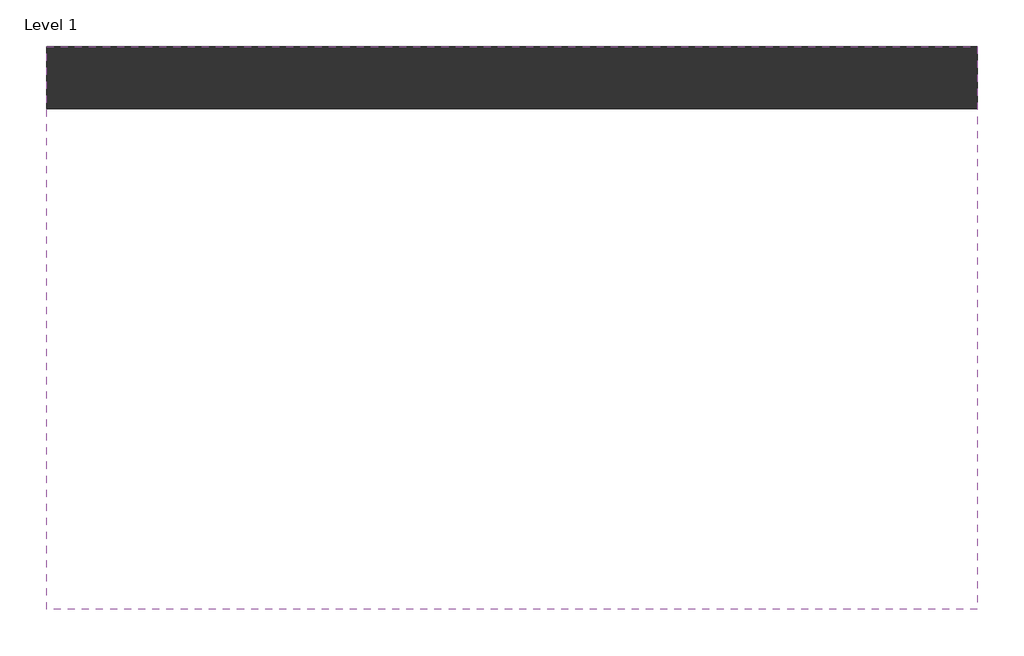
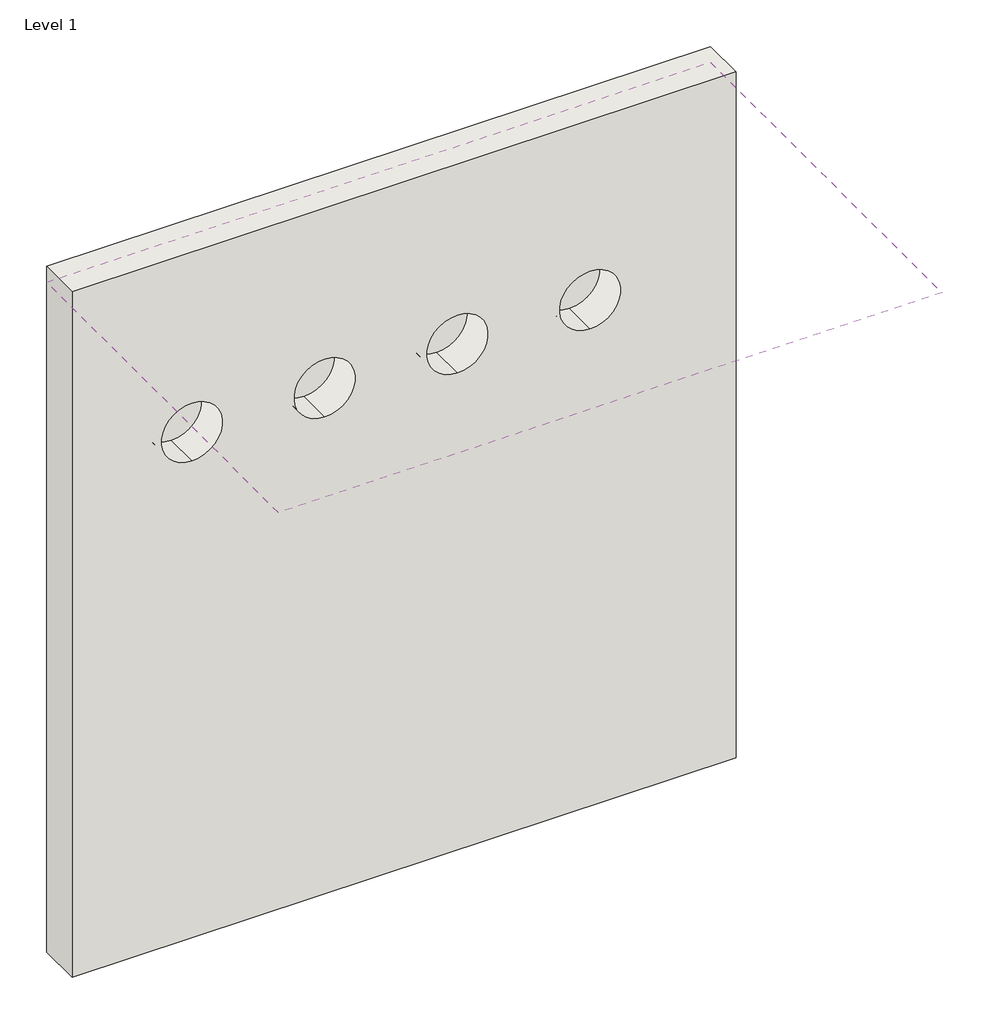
# One storey: 1 covering, 1 wall.
"""IFC4 building model written with IfcOpenShell, lengths in millimetres."""

from ifc_helpers import new_model, si_unit, point, frame, frame_2d, origin, place, context, project, spatial, polyline, circle_curve, trimmed, segment, composite_curve, outline, extrude, element, save
from ifc_brep_helpers import plane_surface, revolved_surface, advanced_brep

model = new_model("IFC4")

# Units and contexts
model_context = context("Model", 3, world=origin())
ifc_project = project(units=[si_unit("LENGTHUNIT", "METRE", prefix="MILLI")], contexts=[model_context])

# Site, building, storey
site = spatial("IfcSite", under=ifc_project)
building = spatial("IfcBuilding", under=site)
storey = spatial("IfcBuildingStorey", under=building, Name="Level 1", Elevation=0.0)

# Covering
placement = place(None, origin())
element("IfcCovering", 1, ObjectType="2' x 4' ACT System", at=placement, inside=storey, context=model_context, shape_type="SweptSolid", body=[
    extrude(outline(polyline([(1833.1973575, 2115.5766815), (4119.1973575, 2115.5766815), (4119.1973575, 732.2741036), (1833.1973575, 732.2741036), (1833.1973575, 2115.5766815)]), holes=[composite_curve([segment(trimmed(circle_curve(frame_2d((2246.1306576, 1319.3766815)), 105.0), [point((2351.1306576, 1319.3766815))], [point((2141.1306576, 1319.3766815))], True, "CARTESIAN"), True, "CONTINUOUS"), segment(trimmed(circle_curve(frame_2d((2246.1306576, 1319.3766815)), 105.0), [point((2141.1306576, 1319.3766815))], [point((2351.1306576, 1319.3766815))], True, "CARTESIAN"), True, "CONTINUOUS")], self_intersect=False), composite_curve([segment(trimmed(circle_curve(frame_2d((2706.1306576, 1319.3766815)), 105.0), [point((2811.1306576, 1319.3766815))], [point((2601.1306576, 1319.3766815))], True, "CARTESIAN"), True, "CONTINUOUS"), segment(trimmed(circle_curve(frame_2d((2706.1306576, 1319.3766815)), 105.0), [point((2601.1306576, 1319.3766815))], [point((2811.1306576, 1319.3766815))], True, "CARTESIAN"), True, "CONTINUOUS")], self_intersect=False), composite_curve([segment(trimmed(circle_curve(frame_2d((3166.1306576, 1319.3766815)), 105.0), [point((3271.1306576, 1319.3766815))], [point((3061.1306576, 1319.3766815))], True, "CARTESIAN"), True, "CONTINUOUS"), segment(trimmed(circle_curve(frame_2d((3166.1306576, 1319.3766815)), 105.0), [point((3061.1306576, 1319.3766815))], [point((3271.1306576, 1319.3766815))], True, "CARTESIAN"), True, "CONTINUOUS")], self_intersect=False), composite_curve([segment(trimmed(circle_curve(frame_2d((3626.1306576, 1319.3766815)), 105.0), [point((3731.1306576, 1319.3766815))], [point((3521.1306576, 1319.3766815))], True, "CARTESIAN"), True, "CONTINUOUS"), segment(trimmed(circle_curve(frame_2d((3626.1306576, 1319.3766815)), 105.0), [point((3521.1306576, 1319.3766815))], [point((3731.1306576, 1319.3766815))], True, "CARTESIAN"), True, "CONTINUOUS")], self_intersect=False)]), frame((0.0, 0.0, 2438.4), z_axis=(0.0, 0.0, 1.0), x_axis=(1.0, 0.0, 0.0)), (0.0, 0.0, 1.0), 57.15),
])

# Wall
element("IfcWall", 2, ObjectType="Exterior - 6\" Generic", at=placement, inside=storey, context=model_context, shape_type="AdvancedBrep", body=[
    advanced_brep(
    [(1833.1973575, 1963.1766815, 0.0), (4119.1973575, 1963.1766815, 0.0), (4119.1973575, 1963.1766815, 2495.55), (1833.1973575, 1963.1766815, 2495.55), (2246.1306576, 1963.1766815, 1945.4804373), (2246.1306576, 1963.1766815, 1735.4804373), (2703.3306576, 1963.1766815, 1945.4804373), (2703.3306576, 1963.1766815, 1735.4804373), (3160.5306576, 1963.1766815, 1945.4804373), (3160.5306576, 1963.1766815, 1735.4804373), (3617.7306576, 1963.1766815, 1945.4804373), (3617.7306576, 1963.1766815, 1735.4804373), (4119.1973575, 2115.5766815, 0.0), (1833.1973575, 2115.5766815, 0.0), (1833.1973575, 2115.5766815, 2495.55), (4119.1973575, 2115.5766815, 2495.55), (2246.1306576, 2087.1167099, 1735.4804373), (2246.1306576, 2087.1167099, 1945.4804373), (2703.3306576, 2087.1167099, 1735.4804373), (2703.3306576, 2087.1167099, 1945.4804373), (3160.5306576, 2087.1167099, 1735.4804373), (3160.5306576, 2087.1167099, 1945.4804373), (3617.7306576, 2087.1167099, 1735.4804373), (3617.7306576, 2087.1167099, 1945.4804373)],
    [
        (0, 1),
        (1, 2),
        (2, 3),
        (3, 0),
        (4, 5, circle_curve(frame((2246.1306576, 1963.1766815, 1840.4804373), z_axis=(0.0, 1.0, 0.0), x_axis=(0.0, 0.0, 1.0)), 105.0)),
        (5, 4, circle_curve(frame((2246.1306576, 1963.1766815, 1840.4804373), z_axis=(0.0, 1.0, 0.0), x_axis=(0.0, 0.0, 1.0)), 105.0)),
        (6, 7, circle_curve(frame((2703.3306576, 1963.1766815, 1840.4804373), z_axis=(0.0, 1.0, 0.0), x_axis=(0.0, 0.0, 1.0)), 105.0)),
        (7, 6, circle_curve(frame((2703.3306576, 1963.1766815, 1840.4804373), z_axis=(0.0, 1.0, 0.0), x_axis=(0.0, 0.0, 1.0)), 105.0)),
        (8, 9, circle_curve(frame((3160.5306576, 1963.1766815, 1840.4804373), z_axis=(0.0, 1.0, 0.0), x_axis=(0.0, 0.0, 1.0)), 105.0)),
        (9, 8, circle_curve(frame((3160.5306576, 1963.1766815, 1840.4804373), z_axis=(0.0, 1.0, 0.0), x_axis=(0.0, 0.0, 1.0)), 105.0)),
        (10, 11, circle_curve(frame((3617.7306576, 1963.1766815, 1840.4804373), z_axis=(0.0, 1.0, 0.0), x_axis=(0.0, 0.0, 1.0)), 105.0)),
        (11, 10, circle_curve(frame((3617.7306576, 1963.1766815, 1840.4804373), z_axis=(0.0, 1.0, 0.0), x_axis=(0.0, 0.0, 1.0)), 105.0)),
        (12, 13),
        (13, 14),
        (14, 15),
        (15, 12),
        (0, 13),
        (12, 1),
        (15, 2),
        (14, 3),
        (16, 17, circle_curve(frame((2246.1306576, 2087.1167099, 1840.4804373), z_axis=(0.0, -1.0, 0.0), x_axis=(0.0, 0.0, 1.0)), 105.0)),
        (17, 16, circle_curve(frame((2246.1306576, 2087.1167099, 1840.4804373), z_axis=(0.0, -1.0, 0.0), x_axis=(0.0, 0.0, 1.0)), 105.0)),
        (16, 5),
        (4, 17),
        (18, 19, circle_curve(frame((2703.3306576, 2087.1167099, 1840.4804373), z_axis=(0.0, -1.0, 0.0), x_axis=(0.0, 0.0, 1.0)), 105.0)),
        (19, 18, circle_curve(frame((2703.3306576, 2087.1167099, 1840.4804373), z_axis=(0.0, -1.0, 0.0), x_axis=(0.0, 0.0, 1.0)), 105.0)),
        (18, 7),
        (6, 19),
        (20, 21, circle_curve(frame((3160.5306576, 2087.1167099, 1840.4804373), z_axis=(0.0, -1.0, 0.0), x_axis=(0.0, 0.0, 1.0)), 105.0)),
        (21, 20, circle_curve(frame((3160.5306576, 2087.1167099, 1840.4804373), z_axis=(0.0, -1.0, 0.0), x_axis=(0.0, 0.0, 1.0)), 105.0)),
        (20, 9),
        (8, 21),
        (22, 23, circle_curve(frame((3617.7306576, 2087.1167099, 1840.4804373), z_axis=(0.0, -1.0, 0.0), x_axis=(0.0, 0.0, 1.0)), 105.0)),
        (23, 22, circle_curve(frame((3617.7306576, 2087.1167099, 1840.4804373), z_axis=(0.0, -1.0, 0.0), x_axis=(0.0, 0.0, 1.0)), 105.0)),
        (22, 11),
        (10, 23),
    ],
    [
        plane_surface(frame((1833.1973575, 1963.1766815, 0.0), z_axis=(0.0, -1.0, 0.0), x_axis=(1.0, 0.0, 0.0))),
        plane_surface(frame((1833.1973575, 2115.5766815, 0.0), z_axis=(0.0, 1.0, 0.0), x_axis=(-1.0, 0.0, 0.0))),
        plane_surface(frame((1833.1973575, 1963.1766815, 0.0), z_axis=(0.0, 0.0, -1.0), x_axis=(0.0, 1.0, 0.0))),
        plane_surface(frame((4119.1973575, 1963.1766815, 0.0), z_axis=(1.0, 0.0, 0.0), x_axis=(0.0, 1.0, 0.0))),
        plane_surface(frame((4119.1973575, 1963.1766815, 2495.55), z_axis=(0.0, 0.0, 1.0), x_axis=(0.0, 1.0, 0.0))),
        plane_surface(frame((1833.1973575, 1963.1766815, 2495.55), z_axis=(-1.0, 0.0, 0.0), x_axis=(0.0, 1.0, 0.0))),
        plane_surface(frame((2246.1306576, 2087.1167099, 1945.4804373), z_axis=(0.0, -1.0, 0.0), x_axis=(1.0, 0.0, 0.0))),
        revolved_surface(polyline([(2246.1306576, 1963.1766815, 1945.4804373), (2246.1306576, 2087.1167099, 1945.4804373)]), (2246.1306576, 2087.1167099, 1840.4804373), (0.0, -1.0, 0.0)),
        plane_surface(frame((2703.3306576, 2087.1167099, 1945.4804373), z_axis=(0.0, -1.0, 0.0), x_axis=(1.0, 0.0, 0.0))),
        revolved_surface(polyline([(2703.3306576, 1963.1766815, 1945.4804373), (2703.3306576, 2087.1167099, 1945.4804373)]), (2703.3306576, 2087.1167099, 1840.4804373), (0.0, -1.0, 0.0)),
        plane_surface(frame((3160.5306576, 2087.1167099, 1945.4804373), z_axis=(0.0, -1.0, 0.0), x_axis=(1.0, 0.0, 0.0))),
        revolved_surface(polyline([(3160.5306576, 1963.1766815, 1945.4804373), (3160.5306576, 2087.1167099, 1945.4804373)]), (3160.5306576, 2087.1167099, 1840.4804373), (0.0, -1.0, 0.0)),
        plane_surface(frame((3617.7306576, 2087.1167099, 1945.4804373), z_axis=(0.0, -1.0, 0.0), x_axis=(1.0, 0.0, 0.0))),
        revolved_surface(polyline([(3617.7306576, 1963.1766815, 1945.4804373), (3617.7306576, 2087.1167099, 1945.4804373)]), (3617.7306576, 2087.1167099, 1840.4804373), (0.0, -1.0, 0.0)),
    ],
    [
        (0, [[1, 2, 3, 4], [5, 6], [7, 8], [9, 10], [11, 12]]),
        (1, [[13, 14, 15, 16]]),
        (2, [[-1, 17, -13, 18]]),
        (3, [[-2, -18, -16, 19]]),
        (4, [[-3, -19, -15, 20]]),
        (5, [[-4, -20, -14, -17]]),
        (6, [[21, 22]]),
        (7, [[-21, 23, -5, 24]]),
        (7, [[-22, -24, -6, -23]]),
        (8, [[25, 26]]),
        (9, [[-25, 27, -7, 28]]),
        (9, [[-26, -28, -8, -27]]),
        (10, [[29, 30]]),
        (11, [[-29, 31, -9, 32]]),
        (11, [[-30, -32, -10, -31]]),
        (12, [[33, 34]]),
        (13, [[-33, 35, -11, 36]]),
        (13, [[-34, -36, -12, -35]]),
    ],
),
])

save(model, "model.ifc")
